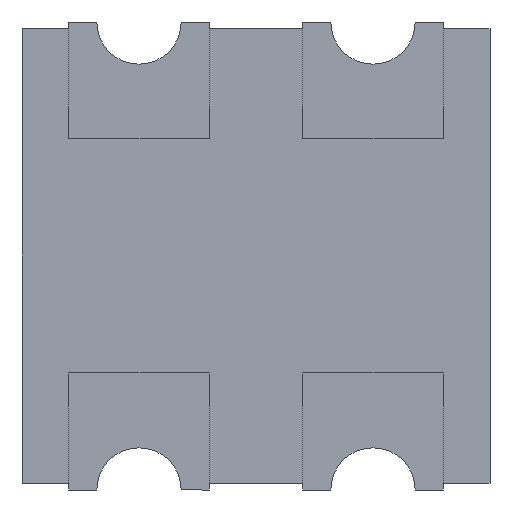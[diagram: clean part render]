
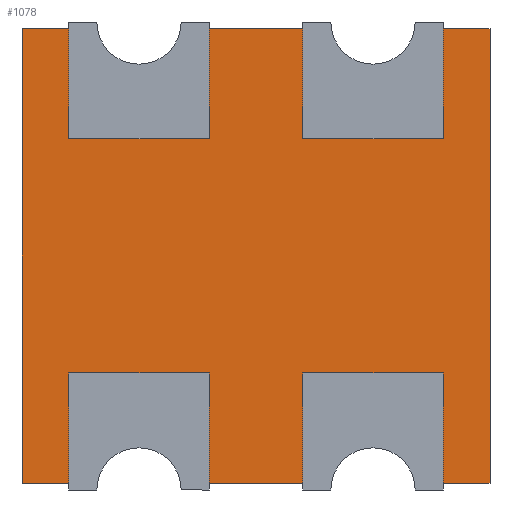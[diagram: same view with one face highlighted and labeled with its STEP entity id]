
A CAD part, front view. The second image highlights one B-rep face of the part: STEP entity #1078.
In plain terms, the highlighted planar face has unit normal (0, -1, 0).
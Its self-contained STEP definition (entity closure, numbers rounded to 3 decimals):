
#19=CIRCLE('',#1135,0.09);
#21=CIRCLE('',#1139,0.09);
#23=CIRCLE('',#1144,0.09);
#25=CIRCLE('',#1149,0.09);
#56=FACE_OUTER_BOUND('',#116,.T.);
#116=EDGE_LOOP('',(#719,#720,#721,#722,#723,#724,#725,#726,#727,#728,#729,
#730));
#163=LINE('',#1494,#291);
#167=LINE('',#1502,#295);
#171=LINE('',#1514,#299);
#175=LINE('',#1526,#303);
#178=LINE('',#1532,#306);
#183=LINE('',#1546,#311);
#185=LINE('',#1550,#313);
#189=LINE('',#1561,#317);
#291=VECTOR('',#1212,0.972);
#295=VECTOR('',#1218,0.16);
#299=VECTOR('',#1230,0.32);
#303=VECTOR('',#1242,0.16);
#306=VECTOR('',#1247,0.972);
#311=VECTOR('',#1260,0.16);
#313=VECTOR('',#1264,0.16);
#317=VECTOR('',#1276,0.32);
#419=VERTEX_POINT('',#1492);
#420=VERTEX_POINT('',#1493);
#423=VERTEX_POINT('',#1501);
#425=VERTEX_POINT('',#1507);
#427=VERTEX_POINT('',#1513);
#429=VERTEX_POINT('',#1519);
#431=VERTEX_POINT('',#1525);
#433=VERTEX_POINT('',#1531);
#435=VERTEX_POINT('',#1537);
#436=VERTEX_POINT('',#1538);
#439=VERTEX_POINT('',#1549);
#441=VERTEX_POINT('',#1555);
#515=EDGE_CURVE('',#419,#420,#163,.T.);
#519=EDGE_CURVE('',#423,#419,#167,.T.);
#522=EDGE_CURVE('',#425,#423,#19,.T.);
#525=EDGE_CURVE('',#427,#425,#171,.T.);
#528=EDGE_CURVE('',#429,#427,#21,.T.);
#531=EDGE_CURVE('',#431,#429,#175,.T.);
#534=EDGE_CURVE('',#433,#431,#178,.T.);
#537=EDGE_CURVE('',#435,#436,#23,.T.);
#541=EDGE_CURVE('',#420,#435,#183,.T.);
#543=EDGE_CURVE('',#439,#433,#185,.T.);
#546=EDGE_CURVE('',#441,#439,#25,.T.);
#549=EDGE_CURVE('',#436,#441,#189,.T.);
#719=ORIENTED_EDGE('',*,*,#543,.F.);
#720=ORIENTED_EDGE('',*,*,#546,.F.);
#721=ORIENTED_EDGE('',*,*,#549,.F.);
#722=ORIENTED_EDGE('',*,*,#537,.F.);
#723=ORIENTED_EDGE('',*,*,#541,.F.);
#724=ORIENTED_EDGE('',*,*,#515,.F.);
#725=ORIENTED_EDGE('',*,*,#519,.F.);
#726=ORIENTED_EDGE('',*,*,#522,.F.);
#727=ORIENTED_EDGE('',*,*,#525,.F.);
#728=ORIENTED_EDGE('',*,*,#528,.F.);
#729=ORIENTED_EDGE('',*,*,#531,.F.);
#730=ORIENTED_EDGE('',*,*,#534,.F.);
#956=PLANE('',#1153);
#1078=ADVANCED_FACE('',(#56),#956,.F.);
#1135=AXIS2_PLACEMENT_3D('',#1508,#1223,#1224);
#1139=AXIS2_PLACEMENT_3D('',#1520,#1235,#1236);
#1144=AXIS2_PLACEMENT_3D('',#1539,#1252,#1253);
#1149=AXIS2_PLACEMENT_3D('',#1556,#1269,#1270);
#1153=AXIS2_PLACEMENT_3D('',#1564,#1280,#1281);
#1212=DIRECTION('',(0.,0.,-1.));
#1218=DIRECTION('',(1.,0.,0.));
#1223=DIRECTION('center_axis',(0.,-1.,0.));
#1224=DIRECTION('ref_axis',(-1.,0.,0.));
#1230=DIRECTION('',(1.,0.,0.));
#1235=DIRECTION('center_axis',(0.,-1.,0.));
#1236=DIRECTION('ref_axis',(-1.,0.,0.));
#1242=DIRECTION('',(1.,0.,0.));
#1247=DIRECTION('',(0.,0.,1.));
#1252=DIRECTION('center_axis',(0.,-1.,0.));
#1253=DIRECTION('ref_axis',(1.,0.,0.));
#1260=DIRECTION('',(-1.,0.,0.));
#1264=DIRECTION('',(-1.,0.,0.));
#1269=DIRECTION('center_axis',(0.,-1.,0.));
#1270=DIRECTION('ref_axis',(1.,0.,0.));
#1276=DIRECTION('',(-1.,0.,0.));
#1280=DIRECTION('center_axis',(0.,1.,0.));
#1281=DIRECTION('ref_axis',(0.,0.,1.));
#1492=CARTESIAN_POINT('',(1.,0.,0.972));
#1493=CARTESIAN_POINT('',(1.,0.,0.));
#1494=CARTESIAN_POINT('',(1.,0.,0.972));
#1501=CARTESIAN_POINT('',(0.84,0.,0.972));
#1502=CARTESIAN_POINT('',(0.84,0.,0.972));
#1507=CARTESIAN_POINT('',(0.66,0.,0.972));
#1508=CARTESIAN_POINT('Origin',(0.75,0.,0.972));
#1513=CARTESIAN_POINT('',(0.34,0.,0.972));
#1514=CARTESIAN_POINT('',(0.34,0.,0.972));
#1519=CARTESIAN_POINT('',(0.16,0.,0.972));
#1520=CARTESIAN_POINT('Origin',(0.25,0.,0.972));
#1525=CARTESIAN_POINT('',(0.,0.,0.972));
#1526=CARTESIAN_POINT('',(0.,0.,0.972));
#1531=CARTESIAN_POINT('',(0.,0.,0.));
#1532=CARTESIAN_POINT('',(0.,0.,0.));
#1537=CARTESIAN_POINT('',(0.84,0.,0.));
#1538=CARTESIAN_POINT('',(0.66,0.,0.));
#1539=CARTESIAN_POINT('Origin',(0.75,0.,0.));
#1546=CARTESIAN_POINT('',(1.,0.,0.));
#1549=CARTESIAN_POINT('',(0.16,0.,0.));
#1550=CARTESIAN_POINT('',(0.16,0.,0.));
#1555=CARTESIAN_POINT('',(0.34,0.,0.));
#1556=CARTESIAN_POINT('Origin',(0.25,0.,0.));
#1561=CARTESIAN_POINT('',(0.66,0.,0.));
#1564=CARTESIAN_POINT('Origin',(0.25,0.,0.093));
